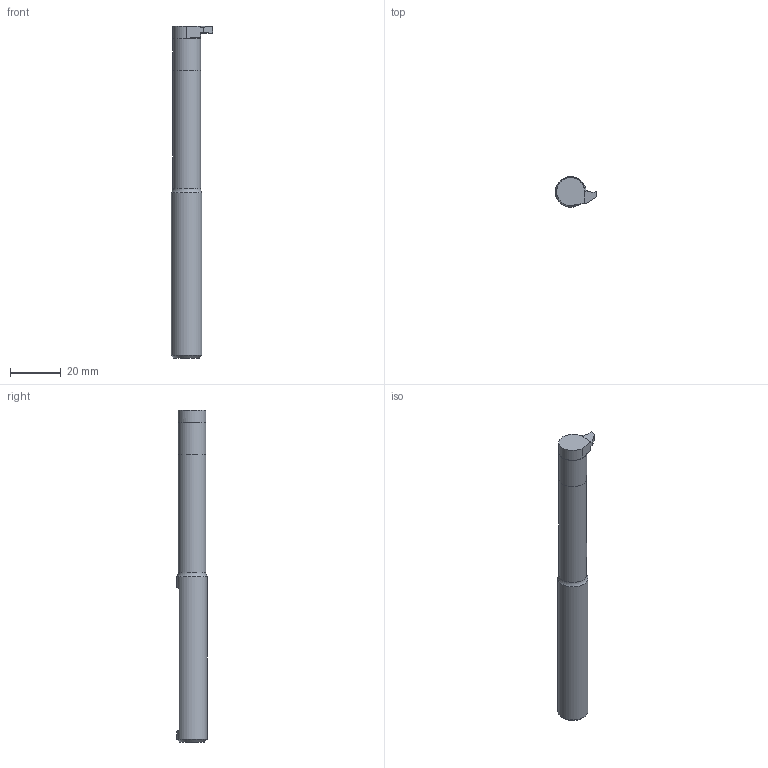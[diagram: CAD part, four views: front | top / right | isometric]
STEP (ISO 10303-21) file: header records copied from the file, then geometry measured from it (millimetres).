
FILE_DESCRIPTION(/* description */ (''),/* implementation_level */ '2;1');
FILE_NAME(/* name */ 'NFTIH16412C-HAAS.stp',/* time_stamp */ '2021-09-17T11:28:02+09:00',/* author */ (''),/* organization */ (''),/* preprocessor_version */ 'ST-DEVELOPER v16',/* originating_system */ 'SIEMENS PLM Software NX 10.0',/* authorisation */ '');
FILE_SCHEMA (('AUTOMOTIVE_DESIGN { 1 0 10303 214 3 1 1 1 }'));
Length unit declared in the file: millimetre
Products named in the file (1): model2
Bounding box: 16.2 x 12 x 130.53 mm (x, y, z)
Volume: 13261.9 mm3; surface area: 5304.9 mm2
Topology: 3 solids, 3 shells, 27 faces, 56 edges, 36 vertices
Faces by surface type: plane 20, cylinder 5, cone 1, torus 1
Full cylindrical faces by diameter (mm): 10.9 x2, 12 x1
Entity records: 718 total; most frequent: DIRECTION 124, CARTESIAN_POINT 113, ORIENTED_EDGE 100, EDGE_CURVE 50, AXIS2_PLACEMENT_3D 46, VERTEX_POINT 35, EDGE_LOOP 33, LINE 32
